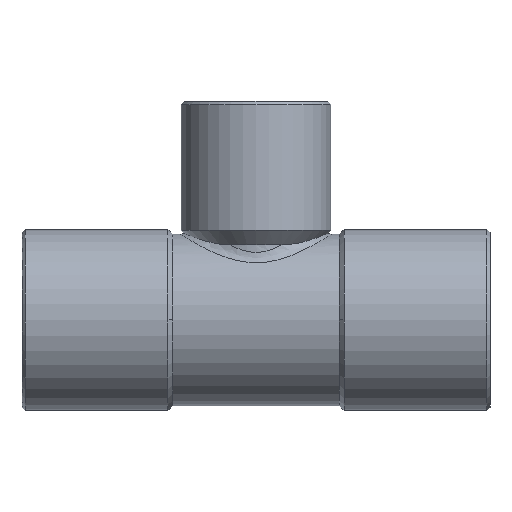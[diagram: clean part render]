
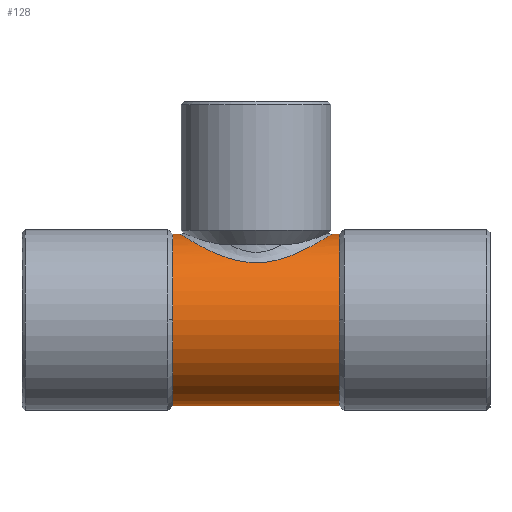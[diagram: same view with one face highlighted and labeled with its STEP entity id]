
A CAD part, top view. The second image highlights one B-rep face of the part: STEP entity #128.
In plain terms, the highlighted cylindrical face has radius 5.5 mm (diameter 11 mm), a partial arc.
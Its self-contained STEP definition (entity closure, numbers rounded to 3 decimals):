
#44=CARTESIAN_POINT('',(0.0,0.,0.0));
#45=DIRECTION('',(1.0,0.,0.0));
#46=DIRECTION('',(0.0,1.0,0.0));
#47=AXIS2_PLACEMENT_3D('',#44,#45,#46);
#48=CYLINDRICAL_SURFACE('',#47,5.5);
#49=CARTESIAN_POINT('',(-5.35,5.5,0.));
#50=VERTEX_POINT('',#49);
#51=CARTESIAN_POINT('',(-4.85,5.5,0.));
#52=VERTEX_POINT('',#51);
#53=CARTESIAN_POINT('',(-5.35,5.5,0.));
#54=DIRECTION('',(1.0,0.0,0.0));
#55=VECTOR('',#54,0.5);
#56=LINE('',#53,#55);
#57=EDGE_CURVE('',#50,#52,#56,.T.);
#58=ORIENTED_EDGE('',*,*,#57,.F.);
#59=CARTESIAN_POINT('',(-5.35,0.,5.5));
#60=VERTEX_POINT('',#59);
#61=CARTESIAN_POINT('',(-5.35,0.,0.0));
#62=DIRECTION('',(1.0,0.0,0.0));
#63=DIRECTION('',(0.0,1.0,0.0));
#64=AXIS2_PLACEMENT_3D('',#61,#62,#63);
#65=CIRCLE('',#64,5.5);
#66=EDGE_CURVE('',#50,#60,#65,.T.);
#67=ORIENTED_EDGE('',*,*,#66,.T.);
#68=CARTESIAN_POINT('',(-5.35,-5.5,0.));
#69=VERTEX_POINT('',#68);
#70=CARTESIAN_POINT('',(-5.35,0.,0.0));
#71=DIRECTION('',(1.0,0.0,0.0));
#72=DIRECTION('',(0.0,1.0,0.0));
#73=AXIS2_PLACEMENT_3D('',#70,#71,#72);
#74=CIRCLE('',#73,5.5);
#75=EDGE_CURVE('',#60,#69,#74,.T.);
#76=ORIENTED_EDGE('',*,*,#75,.T.);
#77=CARTESIAN_POINT('',(5.35,-5.5,0.));
#78=VERTEX_POINT('',#77);
#79=CARTESIAN_POINT('',(5.35,-5.5,0.));
#80=DIRECTION('',(-1.0,0.0,0.0));
#81=VECTOR('',#80,10.7);
#82=LINE('',#79,#81);
#83=EDGE_CURVE('',#78,#69,#82,.T.);
#84=ORIENTED_EDGE('',*,*,#83,.F.);
#85=CARTESIAN_POINT('',(5.35,0.,5.5));
#86=VERTEX_POINT('',#85);
#87=CARTESIAN_POINT('',(5.35,0.,0.0));
#88=DIRECTION('',(-1.0,0.0,0.0));
#89=DIRECTION('',(0.0,1.0,0.0));
#90=AXIS2_PLACEMENT_3D('',#87,#88,#89);
#91=CIRCLE('',#90,5.5);
#92=EDGE_CURVE('',#78,#86,#91,.T.);
#93=ORIENTED_EDGE('',*,*,#92,.T.);
#94=CARTESIAN_POINT('',(5.35,5.5,0.));
#95=VERTEX_POINT('',#94);
#96=CARTESIAN_POINT('',(5.35,0.,0.0));
#97=DIRECTION('',(-1.0,0.0,0.0));
#98=DIRECTION('',(0.0,1.0,0.0));
#99=AXIS2_PLACEMENT_3D('',#96,#97,#98);
#100=CIRCLE('',#99,5.5);
#101=EDGE_CURVE('',#86,#95,#100,.T.);
#102=ORIENTED_EDGE('',*,*,#101,.T.);
#103=CARTESIAN_POINT('',(4.85,5.5,0.));
#104=VERTEX_POINT('',#103);
#105=CARTESIAN_POINT('',(4.85,5.5,0.));
#106=DIRECTION('',(1.0,0.0,0.0));
#107=VECTOR('',#106,0.5);
#108=LINE('',#105,#107);
#109=EDGE_CURVE('',#104,#95,#108,.T.);
#110=ORIENTED_EDGE('',*,*,#109,.F.);
#111=CARTESIAN_POINT('',(-4.85,5.5,0.));
#112=CARTESIAN_POINT('',(-4.85,5.5,0.79));
#113=CARTESIAN_POINT('',(-4.562,5.313,1.579));
#114=CARTESIAN_POINT('',(-3.553,4.726,2.918));
#115=CARTESIAN_POINT('',(-2.79,4.297,3.462));
#116=CARTESIAN_POINT('',(-1.076,3.723,4.067));
#117=CARTESIAN_POINT('',(-0.127,3.588,4.172));
#118=CARTESIAN_POINT('',(1.647,3.848,3.934));
#119=CARTESIAN_POINT('',(2.434,4.178,3.619));
#120=CARTESIAN_POINT('',(4.134,5.012,2.437));
#121=CARTESIAN_POINT('',(4.85,5.5,1.251));
#122=CARTESIAN_POINT('',(4.85,5.5,0.));
#123=B_SPLINE_CURVE_WITH_KNOTS('',3,(#111,#112,#113,#114,#115,#116,#117,#118,#119,#120,#121,#122),.UNSPECIFIED.,.F.,.U.,(4,2,2,2,2,4),(0.608,0.822,1.066,1.274,1.482,1.823),.UNSPECIFIED.);
#124=EDGE_CURVE('',#52,#104,#123,.T.);
#125=ORIENTED_EDGE('',*,*,#124,.F.);
#126=EDGE_LOOP('',(#58,#67,#76,#84,#93,#102,#110,#125));
#127=FACE_OUTER_BOUND('',#126,.T.);
#128=ADVANCED_FACE('',(#127),#48,.T.);
